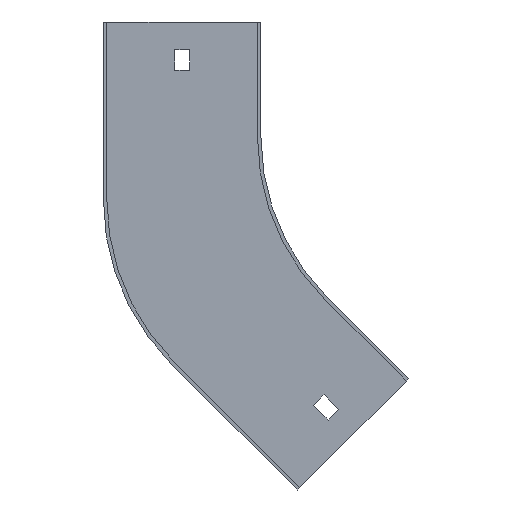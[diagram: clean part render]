
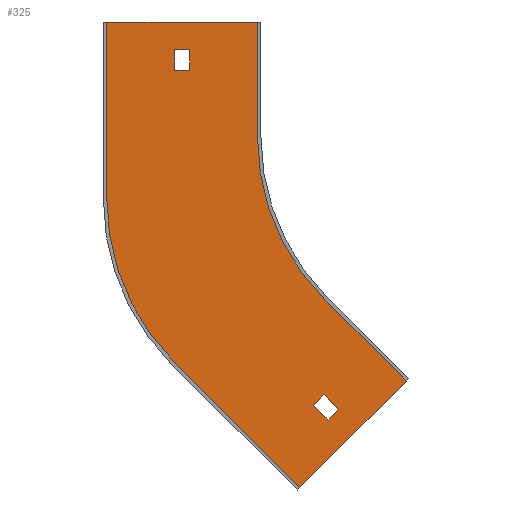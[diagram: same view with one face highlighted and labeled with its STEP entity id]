
A CAD part, front view. The second image highlights one B-rep face of the part: STEP entity #325.
In plain terms, the highlighted planar face has unit normal (0, -1, 0).
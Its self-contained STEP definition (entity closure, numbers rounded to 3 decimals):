
#5 = ORIENTED_EDGE ( 'NONE', *, *, #592, .F. ) ;
#7 = CARTESIAN_POINT ( 'NONE',  ( -75.66, -1.5, -116.673 ) ) ;
#16 = DIRECTION ( 'NONE',  ( 0., 1., 0. ) ) ;
#22 = ORIENTED_EDGE ( 'NONE', *, *, #300, .F. ) ;
#23 = LINE ( 'NONE', #346, #496 ) ;
#27 = VECTOR ( 'NONE', #317, 1000. ) ;
#38 = ORIENTED_EDGE ( 'NONE', *, *, #409, .F. ) ;
#43 = EDGE_CURVE ( 'NONE', #793, #350, #126, .T. ) ;
#44 = FACE_BOUND ( 'NONE', #544, .T. ) ;
#49 = VECTOR ( 'NONE', #363, 1000. ) ;
#63 = EDGE_CURVE ( 'NONE', #333, #418, #379, .T. ) ;
#64 = VERTEX_POINT ( 'NONE', #678 ) ;
#68 = ORIENTED_EDGE ( 'NONE', *, *, #525, .F. ) ;
#73 = CARTESIAN_POINT ( 'NONE',  ( -65.5, -1.5, -27.131 ) ) ;
#79 = AXIS2_PLACEMENT_3D ( 'NONE', #173, #774, #180 ) ;
#89 = CARTESIAN_POINT ( 'NONE',  ( 26.87, -1.5, -26.87 ) ) ;
#97 = DIRECTION ( 'NONE',  ( 0., 0., 1. ) ) ;
#98 = CIRCLE ( 'NONE', #79, 100. ) ;
#101 = CARTESIAN_POINT ( 'NONE',  ( -100., -1.5, 0. ) ) ;
#103 = ORIENTED_EDGE ( 'NONE', *, *, #549, .T. ) ;
#126 = LINE ( 'NONE', #575, #805 ) ;
#133 = EDGE_CURVE ( 'NONE', #279, #161, #23, .T. ) ;
#135 = ORIENTED_EDGE ( 'NONE', *, *, #748, .F. ) ;
#144 = CARTESIAN_POINT ( 'NONE',  ( -165.5, -1.5, 50. ) ) ;
#145 = DIRECTION ( 'NONE',  ( -0.707, 0., -0.707 ) ) ;
#147 = DIRECTION ( 'NONE',  ( 0.707, 0., 0.707 ) ) ;
#154 = ORIENTED_EDGE ( 'NONE', *, *, #395, .F. ) ;
#161 = VERTEX_POINT ( 'NONE', #101 ) ;
#168 = DIRECTION ( 'NONE',  ( -0.707, 0., 0.707 ) ) ;
#171 = CARTESIAN_POINT ( 'NONE',  ( -70.711, -1.5, -70.711 ) ) ;
#173 = CARTESIAN_POINT ( 'NONE',  ( 0., -1.5, 0. ) ) ;
#180 = DIRECTION ( 'NONE',  ( 0., 0., -1. ) ) ;
#185 = CARTESIAN_POINT ( 'NONE',  ( 0., -1.5, 0. ) ) ;
#212 = CARTESIAN_POINT ( 'NONE',  ( -165.5, -1.5, -27.131 ) ) ;
#230 = CARTESIAN_POINT ( 'NONE',  ( -136., -1.5, 0. ) ) ;
#238 = VERTEX_POINT ( 'NONE', #250 ) ;
#248 = ORIENTED_EDGE ( 'NONE', *, *, #741, .F. ) ;
#250 = CARTESIAN_POINT ( 'NONE',  ( -69.296, -1.5, -123.037 ) ) ;
#251 = LINE ( 'NONE', #715, #261 ) ;
#259 = CIRCLE ( 'NONE', #572, 100. ) ;
#261 = VECTOR ( 'NONE', #145, 1000. ) ;
#275 = LINE ( 'NONE', #285, #624 ) ;
#279 = VERTEX_POINT ( 'NONE', #726 ) ;
#283 = VERTEX_POINT ( 'NONE', #443 ) ;
#285 = CARTESIAN_POINT ( 'NONE',  ( -129.5, -1.5, 0. ) ) ;
#295 = ORIENTED_EDGE ( 'NONE', *, *, #783, .F. ) ;
#300 = EDGE_CURVE ( 'NONE', #283, #333, #788, .T. ) ;
#317 = DIRECTION ( 'NONE',  ( -0.707, 0., 0.707 ) ) ;
#321 = DIRECTION ( 'NONE',  ( -0.707, 0., -0.707 ) ) ;
#325 = ADVANCED_FACE ( 'NONE', ( #44, #499, #567 ), #445, .T. ) ;
#329 = EDGE_CURVE ( 'NONE', #161, #621, #98, .T. ) ;
#333 = VERTEX_POINT ( 'NONE', #705 ) ;
#337 = LINE ( 'NONE', #747, #396 ) ;
#346 = CARTESIAN_POINT ( 'NONE',  ( -100., -1.5, 50. ) ) ;
#350 = VERTEX_POINT ( 'NONE', #429 ) ;
#361 = ORIENTED_EDGE ( 'NONE', *, *, #43, .T. ) ;
#363 = DIRECTION ( 'NONE',  ( 0.707, 0., -0.707 ) ) ;
#379 = LINE ( 'NONE', #579, #27 ) ;
#393 = EDGE_CURVE ( 'NONE', #608, #448, #607, .T. ) ;
#394 = ORIENTED_EDGE ( 'NONE', *, *, #797, .T. ) ;
#395 = EDGE_CURVE ( 'NONE', #418, #608, #259, .T. ) ;
#396 = VECTOR ( 'NONE', #168, 1000. ) ;
#401 = ORIENTED_EDGE ( 'NONE', *, *, #133, .F. ) ;
#409 = EDGE_CURVE ( 'NONE', #563, #64, #337, .T. ) ;
#418 = VERTEX_POINT ( 'NONE', #601 ) ;
#422 = CARTESIAN_POINT ( 'NONE',  ( -167., -1.5, 50. ) ) ;
#429 = CARTESIAN_POINT ( 'NONE',  ( -129.5, -1.5, 38. ) ) ;
#433 = CARTESIAN_POINT ( 'NONE',  ( -129.5, -1.5, 29. ) ) ;
#443 = CARTESIAN_POINT ( 'NONE',  ( -35.355, -1.5, -106.066 ) ) ;
#444 = DIRECTION ( 'NONE',  ( 0.707, 0., -0.707 ) ) ;
#445 = PLANE ( 'NONE',  #857 ) ;
#447 = VECTOR ( 'NONE', #610, 1000. ) ;
#448 = VERTEX_POINT ( 'NONE', #144 ) ;
#459 = ORIENTED_EDGE ( 'NONE', *, *, #329, .F. ) ;
#461 = LINE ( 'NONE', #467, #800 ) ;
#462 = VECTOR ( 'NONE', #147, 1000. ) ;
#467 = CARTESIAN_POINT ( 'NONE',  ( 0., -1.5, 29. ) ) ;
#491 = CARTESIAN_POINT ( 'NONE',  ( -96.167, -1.5, -96.167 ) ) ;
#493 = DIRECTION ( 'NONE',  ( 0., -1., 0. ) ) ;
#496 = VECTOR ( 'NONE', #756, 1000. ) ;
#499 = FACE_OUTER_BOUND ( 'NONE', #615, .T. ) ;
#500 = EDGE_CURVE ( 'NONE', #350, #687, #275, .T. ) ;
#514 = VECTOR ( 'NONE', #97, 1000. ) ;
#525 = EDGE_CURVE ( 'NONE', #238, #563, #810, .T. ) ;
#529 = CARTESIAN_POINT ( 'NONE',  ( -70.711, -1.5, -70.711 ) ) ;
#530 = ORIENTED_EDGE ( 'NONE', *, *, #393, .F. ) ;
#535 = DIRECTION ( 'NONE',  ( 0., 0., -1. ) ) ;
#544 = EDGE_LOOP ( 'NONE', ( #38, #68, #135, #295 ) ) ;
#549 = EDGE_CURVE ( 'NONE', #763, #793, #828, .T. ) ;
#560 = LINE ( 'NONE', #491, #843 ) ;
#563 = VERTEX_POINT ( 'NONE', #750 ) ;
#567 = FACE_BOUND ( 'NONE', #860, .T. ) ;
#571 = CARTESIAN_POINT ( 'NONE',  ( -136., -1.5, 29. ) ) ;
#572 = AXIS2_PLACEMENT_3D ( 'NONE', #73, #16, #812 ) ;
#575 = CARTESIAN_POINT ( 'NONE',  ( 0., -1.5, 38. ) ) ;
#579 = CARTESIAN_POINT ( 'NONE',  ( -81.671, -1.5, -152.382 ) ) ;
#584 = CARTESIAN_POINT ( 'NONE',  ( -34.295, -1.5, -105.005 ) ) ;
#585 = DIRECTION ( 'NONE',  ( -1., 0., 0. ) ) ;
#586 = VECTOR ( 'NONE', #745, 1000. ) ;
#592 = EDGE_CURVE ( 'NONE', #448, #279, #680, .T. ) ;
#597 = VERTEX_POINT ( 'NONE', #7 ) ;
#601 = CARTESIAN_POINT ( 'NONE',  ( -136.211, -1.5, -97.842 ) ) ;
#607 = LINE ( 'NONE', #212, #514 ) ;
#608 = VERTEX_POINT ( 'NONE', #686 ) ;
#610 = DIRECTION ( 'NONE',  ( 1., 0., 0. ) ) ;
#615 = EDGE_LOOP ( 'NONE', ( #5, #530, #154, #829, #22, #248, #459, #401 ) ) ;
#621 = VERTEX_POINT ( 'NONE', #529 ) ;
#624 = VECTOR ( 'NONE', #535, 1000. ) ;
#658 = CARTESIAN_POINT ( 'NONE',  ( -136., -1.5, 38. ) ) ;
#678 = CARTESIAN_POINT ( 'NONE',  ( -71.064, -1.5, -112.076 ) ) ;
#680 = LINE ( 'NONE', #422, #447 ) ;
#686 = CARTESIAN_POINT ( 'NONE',  ( -165.5, -1.5, -27.131 ) ) ;
#687 = VERTEX_POINT ( 'NONE', #433 ) ;
#705 = CARTESIAN_POINT ( 'NONE',  ( -81.671, -1.5, -152.382 ) ) ;
#707 = DIRECTION ( 'NONE',  ( 1., 0., 0. ) ) ;
#709 = LINE ( 'NONE', #171, #49 ) ;
#715 = CARTESIAN_POINT ( 'NONE',  ( 20.506, -1.5, -20.506 ) ) ;
#726 = CARTESIAN_POINT ( 'NONE',  ( -100., -1.5, 50. ) ) ;
#735 = VECTOR ( 'NONE', #321, 1000. ) ;
#741 = EDGE_CURVE ( 'NONE', #621, #283, #709, .T. ) ;
#745 = DIRECTION ( 'NONE',  ( 0., 0., 1. ) ) ;
#747 = CARTESIAN_POINT ( 'NONE',  ( -91.57, -1.5, -91.57 ) ) ;
#748 = EDGE_CURVE ( 'NONE', #597, #238, #560, .T. ) ;
#750 = CARTESIAN_POINT ( 'NONE',  ( -64.7, -1.5, -118.44 ) ) ;
#756 = DIRECTION ( 'NONE',  ( 0., 0., -1. ) ) ;
#763 = VERTEX_POINT ( 'NONE', #571 ) ;
#769 = DIRECTION ( 'NONE',  ( 0., 0., -1. ) ) ;
#774 = DIRECTION ( 'NONE',  ( 0., -1., 0. ) ) ;
#783 = EDGE_CURVE ( 'NONE', #64, #597, #251, .T. ) ;
#788 = LINE ( 'NONE', #584, #735 ) ;
#793 = VERTEX_POINT ( 'NONE', #658 ) ;
#797 = EDGE_CURVE ( 'NONE', #687, #763, #461, .T. ) ;
#800 = VECTOR ( 'NONE', #585, 1000. ) ;
#805 = VECTOR ( 'NONE', #707, 1000. ) ;
#810 = LINE ( 'NONE', #89, #462 ) ;
#812 = DIRECTION ( 'NONE',  ( 0., 0., -1. ) ) ;
#822 = ORIENTED_EDGE ( 'NONE', *, *, #500, .T. ) ;
#828 = LINE ( 'NONE', #230, #586 ) ;
#829 = ORIENTED_EDGE ( 'NONE', *, *, #63, .F. ) ;
#843 = VECTOR ( 'NONE', #444, 1000. ) ;
#857 = AXIS2_PLACEMENT_3D ( 'NONE', #185, #493, #769 ) ;
#860 = EDGE_LOOP ( 'NONE', ( #361, #822, #394, #103 ) ) ;
